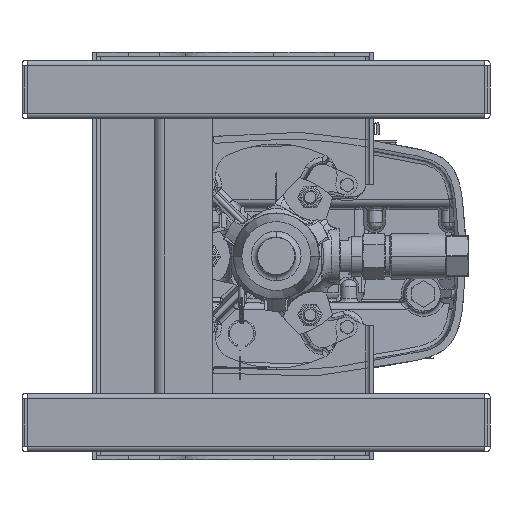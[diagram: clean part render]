
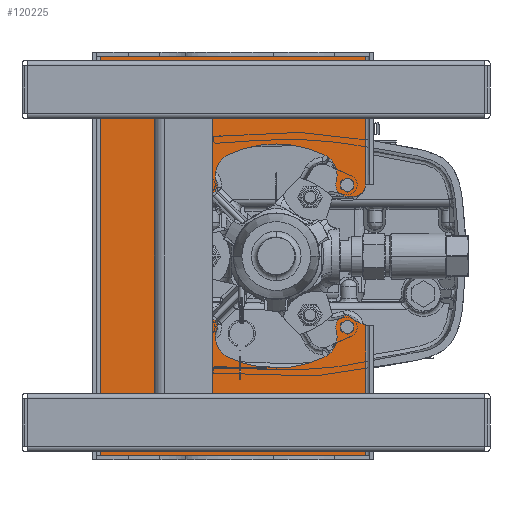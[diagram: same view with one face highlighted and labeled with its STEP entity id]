
A CAD part, front view. The second image highlights one B-rep face of the part: STEP entity #120225.
In plain terms, the highlighted planar face has unit normal (0, -1, 0).
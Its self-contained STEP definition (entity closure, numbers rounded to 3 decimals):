
#119324=CARTESIAN_POINT('',(0.538,-8.4,4.52));
#119326=DIRECTION('',(0.,0.,-1.));
#119327=VECTOR('',#119326,5.781);
#119328=CARTESIAN_POINT('',(0.538,-8.4,10.301));
#119329=LINE('',#119328,#119327);
#119335=CARTESIAN_POINT('',(0.859,-8.4,-0.105));
#119336=DIRECTION('',(0.,1.,0.));
#119337=DIRECTION('',(-0.214,0.,-0.977));
#119338=AXIS2_PLACEMENT_3D('',#119335,#119336,#119337);
#119340=DIRECTION('',(0.,0.,-1.));
#119341=VECTOR('',#119340,15.745);
#119342=CARTESIAN_POINT('',(-10.992,-8.4,8.296));
#119343=LINE('',#119342,#119341);
#119344=DIRECTION('',(1.,0.,0.));
#119345=VECTOR('',#119344,0.52);
#119346=CARTESIAN_POINT('',(-10.992,-8.4,8.296));
#119347=LINE('',#119346,#119345);
#119348=CARTESIAN_POINT('',(-10.472,-8.4,8.921));
#119349=DIRECTION('',(0.,1.,0.));
#119350=DIRECTION('',(0.,0.,1.));
#119351=AXIS2_PLACEMENT_3D('',#119348,#119349,#119350);
#119353=DIRECTION('',(-1.,0.,0.));
#119354=VECTOR('',#119353,0.52);
#119355=CARTESIAN_POINT('',(-10.472,-8.4,9.546));
#119356=LINE('',#119355,#119354);
#119357=DIRECTION('',(0.,0.,-1.));
#119358=VECTOR('',#119357,0.755);
#119359=CARTESIAN_POINT('',(-10.992,-8.4,10.301));
#119360=LINE('',#119359,#119358);
#119361=CARTESIAN_POINT('',(0.538,-8.4,4.52));
#119362=CARTESIAN_POINT('',(0.538,-8.4,4.476));
#119363=CARTESIAN_POINT('',(0.526,-8.4,4.389));
#119364=CARTESIAN_POINT('',(0.476,-8.4,4.267));
#119365=CARTESIAN_POINT('',(0.396,-8.4,4.162));
#119366=CARTESIAN_POINT('',(0.291,-8.4,4.082));
#119367=CARTESIAN_POINT('',(0.169,-8.4,4.031));
#119368=CARTESIAN_POINT('',(0.082,-8.4,4.02));
#119369=CARTESIAN_POINT('',(0.038,-8.4,4.02));
#119371=DIRECTION('',(-1.,0.,0.));
#119372=VECTOR('',#119371,0.297);
#119373=CARTESIAN_POINT('',(0.038,-8.4,4.02));
#119374=LINE('',#119373,#119372);
#119375=CARTESIAN_POINT('',(-0.259,-8.4,4.52));
#119376=DIRECTION('',(0.,1.,0.));
#119377=DIRECTION('',(0.,0.,-1.));
#119378=AXIS2_PLACEMENT_3D('',#119375,#119376,#119377);
#119380=CARTESIAN_POINT('',(-1.7,-8.4,4.937));
#119381=DIRECTION('',(0.,1.,0.));
#119382=DIRECTION('',(0.426,0.,0.905));
#119383=AXIS2_PLACEMENT_3D('',#119380,#119381,#119382);
#119385=CARTESIAN_POINT('',(-3.352,-8.4,1.426));
#119386=DIRECTION('',(0.,1.,0.));
#119387=DIRECTION('',(-0.426,0.,0.905));
#119388=AXIS2_PLACEMENT_3D('',#119385,#119386,#119387);
#119390=CARTESIAN_POINT('',(-5.004,-8.4,4.937));
#119391=DIRECTION('',(0.,1.,0.));
#119392=DIRECTION('',(-0.96,0.,-0.278));
#119393=AXIS2_PLACEMENT_3D('',#119390,#119391,#119392);
#119395=CARTESIAN_POINT('',(-6.445,-8.4,4.519));
#119396=DIRECTION('',(0.,1.,0.));
#119397=DIRECTION('',(0.96,0.,0.278));
#119398=AXIS2_PLACEMENT_3D('',#119395,#119396,#119397);
#119400=CARTESIAN_POINT('',(-6.863,-8.4,3.078));
#119401=DIRECTION('',(0.,1.,0.));
#119402=DIRECTION('',(-0.905,0.,0.426));
#119403=AXIS2_PLACEMENT_3D('',#119400,#119401,#119402);
#119405=CARTESIAN_POINT('',(-3.352,-8.4,1.426));
#119406=DIRECTION('',(0.,1.,0.));
#119407=DIRECTION('',(-0.905,0.,-0.426));
#119408=AXIS2_PLACEMENT_3D('',#119405,#119406,#119407);
#119410=CARTESIAN_POINT('',(-6.863,-8.4,-0.226));
#119411=DIRECTION('',(0.,1.,0.));
#119412=DIRECTION('',(0.278,0.,-0.96));
#119413=AXIS2_PLACEMENT_3D('',#119410,#119411,#119412);
#119415=CARTESIAN_POINT('',(-6.445,-8.4,-1.667));
#119416=DIRECTION('',(0.,1.,0.));
#119417=DIRECTION('',(-0.278,0.,0.96));
#119418=AXIS2_PLACEMENT_3D('',#119415,#119416,#119417);
#119420=CARTESIAN_POINT('',(-5.004,-8.4,-2.085));
#119421=DIRECTION('',(0.,1.,0.));
#119422=DIRECTION('',(-0.426,0.,-0.905));
#119423=AXIS2_PLACEMENT_3D('',#119420,#119421,#119422);
#119425=CARTESIAN_POINT('',(-3.352,-8.4,1.426));
#119426=DIRECTION('',(0.,1.,0.));
#119427=DIRECTION('',(0.426,0.,-0.905));
#119428=AXIS2_PLACEMENT_3D('',#119425,#119426,#119427);
#119430=CARTESIAN_POINT('',(-1.7,-8.4,-2.085));
#119431=DIRECTION('',(0.,1.,0.));
#119432=DIRECTION('',(0.961,0.,0.278));
#119433=AXIS2_PLACEMENT_3D('',#119430,#119431,#119432);
#119435=CARTESIAN_POINT('',(-0.259,-8.4,-1.668));
#119436=DIRECTION('',(0.,1.,0.));
#119437=DIRECTION('',(-0.961,0.,-0.278));
#119438=AXIS2_PLACEMENT_3D('',#119435,#119436,#119437);
#119440=DIRECTION('',(1.,0.,0.));
#119441=VECTOR('',#119440,0.06);
#119442=CARTESIAN_POINT('',(-0.259,-8.4,-1.168));
#119443=LINE('',#119442,#119441);
#119628=DIRECTION('',(1.,0.,0.));
#119629=VECTOR('',#119628,11.53);
#119630=CARTESIAN_POINT('',(-10.992,-8.4,10.301));
#119631=LINE('',#119630,#119629);
#119790=DIRECTION('',(1.,0.,0.));
#119791=VECTOR('',#119790,11.53);
#119792=CARTESIAN_POINT('',(-10.992,-8.4,-7.449));
#119793=LINE('',#119792,#119791);
#119883=DIRECTION('',(0.,0.,-1.));
#119884=VECTOR('',#119883,5.879);
#119885=CARTESIAN_POINT('',(0.538,-8.4,-1.57));
#119886=LINE('',#119885,#119884);
#119978=CARTESIAN_POINT('',(0.538,-8.4,10.301));
#119980=VERTEX_POINT('',#119978);
#119992=CARTESIAN_POINT('',(-10.992,-8.4,10.301));
#119993=VERTEX_POINT('',#119992);
#119994=CARTESIAN_POINT('',(-10.992,-8.4,-7.449));
#119995=VERTEX_POINT('',#119994);
#119996=CARTESIAN_POINT('',(0.538,-8.4,-7.449));
#119997=VERTEX_POINT('',#119996);
#119998=CARTESIAN_POINT('',(-0.739,-8.4,-1.807));
#119999=CARTESIAN_POINT('',(-0.259,-8.4,-1.168));
#120000=VERTEX_POINT('',#119998);
#120001=VERTEX_POINT('',#119999);
#120002=CARTESIAN_POINT('',(-1.274,-8.4,-2.99));
#120003=VERTEX_POINT('',#120002);
#120004=CARTESIAN_POINT('',(-5.43,-8.4,-2.989));
#120005=VERTEX_POINT('',#120004);
#120006=CARTESIAN_POINT('',(-5.965,-8.4,-1.806));
#120007=VERTEX_POINT('',#120006);
#120008=CARTESIAN_POINT('',(-6.584,-8.4,-1.187));
#120009=VERTEX_POINT('',#120008);
#120010=CARTESIAN_POINT('',(-7.767,-8.4,-0.652));
#120011=VERTEX_POINT('',#120010);
#120012=CARTESIAN_POINT('',(-7.767,-8.4,3.504));
#120013=VERTEX_POINT('',#120012);
#120014=CARTESIAN_POINT('',(-6.584,-8.4,4.039));
#120015=VERTEX_POINT('',#120014);
#120016=CARTESIAN_POINT('',(-5.965,-8.4,4.658));
#120017=VERTEX_POINT('',#120016);
#120018=CARTESIAN_POINT('',(-5.43,-8.4,5.841));
#120019=VERTEX_POINT('',#120018);
#120020=CARTESIAN_POINT('',(-1.274,-8.4,5.842));
#120021=VERTEX_POINT('',#120020);
#120022=CARTESIAN_POINT('',(-0.739,-8.4,4.659));
#120023=VERTEX_POINT('',#120022);
#120024=CARTESIAN_POINT('',(-0.259,-8.4,4.02));
#120025=VERTEX_POINT('',#120024);
#120043=CARTESIAN_POINT('',(-10.992,-8.4,9.546));
#120045=VERTEX_POINT('',#120043);
#120047=CARTESIAN_POINT('',(-10.992,-8.4,8.296));
#120049=VERTEX_POINT('',#120047);
#120050=CARTESIAN_POINT('',(-10.472,-8.4,9.546));
#120051=VERTEX_POINT('',#120050);
#120052=CARTESIAN_POINT('',(-10.472,-8.4,8.296));
#120053=VERTEX_POINT('',#120052);
#120070=CARTESIAN_POINT('',(0.538,-8.4,-1.57));
#120071=CARTESIAN_POINT('',(-0.199,-8.4,-1.168));
#120072=VERTEX_POINT('',#120070);
#120073=VERTEX_POINT('',#120071);
#120086=VERTEX_POINT('',#119324);
#120090=VERTEX_POINT('',#119369);
#120167=CARTESIAN_POINT('',(-10.992,-8.4,10.301));
#120168=DIRECTION('',(0.,1.,0.));
#120169=DIRECTION('',(1.,0.,0.));
#120170=AXIS2_PLACEMENT_3D('',#120167,#120168,#120169);
#120171=PLANE('',#120170);
#120173=ORIENTED_EDGE('',*,*,#120172,.F.);
#120175=ORIENTED_EDGE('',*,*,#120174,.T.);
#120177=ORIENTED_EDGE('',*,*,#120176,.F.);
#120179=ORIENTED_EDGE('',*,*,#120178,.F.);
#120181=ORIENTED_EDGE('',*,*,#120180,.T.);
#120183=ORIENTED_EDGE('',*,*,#120182,.F.);
#120185=ORIENTED_EDGE('',*,*,#120184,.T.);
#120187=ORIENTED_EDGE('',*,*,#120186,.F.);
#120189=ORIENTED_EDGE('',*,*,#120188,.T.);
#120190=ORIENTED_EDGE('',*,*,#120159,.T.);
#120192=ORIENTED_EDGE('',*,*,#120191,.T.);
#120194=ORIENTED_EDGE('',*,*,#120193,.T.);
#120196=ORIENTED_EDGE('',*,*,#120195,.T.);
#120198=ORIENTED_EDGE('',*,*,#120197,.F.);
#120200=ORIENTED_EDGE('',*,*,#120199,.F.);
#120202=ORIENTED_EDGE('',*,*,#120201,.F.);
#120204=ORIENTED_EDGE('',*,*,#120203,.T.);
#120206=ORIENTED_EDGE('',*,*,#120205,.F.);
#120208=ORIENTED_EDGE('',*,*,#120207,.F.);
#120210=ORIENTED_EDGE('',*,*,#120209,.F.);
#120212=ORIENTED_EDGE('',*,*,#120211,.T.);
#120214=ORIENTED_EDGE('',*,*,#120213,.F.);
#120216=ORIENTED_EDGE('',*,*,#120215,.F.);
#120218=ORIENTED_EDGE('',*,*,#120217,.F.);
#120220=ORIENTED_EDGE('',*,*,#120219,.T.);
#120222=ORIENTED_EDGE('',*,*,#120221,.T.);
#120223=EDGE_LOOP('',(#120173,#120175,#120177,#120179,#120181,#120183,#120185,
#120187,#120189,#120190,#120192,#120194,#120196,#120198,#120200,#120202,#120204,
#120206,#120208,#120210,#120212,#120214,#120216,#120218,#120220,#120222));
#120224=FACE_OUTER_BOUND('',#120223,.F.);
#120225=ADVANCED_FACE('',(#120224),#120171,.F.);
#119339=CIRCLE('',#119338,1.5);
#119352=CIRCLE('',#119351,0.625);
#119370=B_SPLINE_CURVE_WITH_KNOTS('',3,(#119361,#119362,#119363,#119364,#119365,
#119366,#119367,#119368,#119369),.UNSPECIFIED.,.F.,.F.,(4,1,1,1,1,1,4),(0.,
0.167,0.333,0.5,0.667,0.833,
1.),.UNSPECIFIED.);
#119379=CIRCLE('',#119378,0.5);
#119384=CIRCLE('',#119383,1.);
#119389=CIRCLE('',#119388,4.88);
#119394=CIRCLE('',#119393,1.);
#119399=CIRCLE('',#119398,0.5);
#119404=CIRCLE('',#119403,1.);
#119409=CIRCLE('',#119408,4.88);
#119414=CIRCLE('',#119413,1.);
#119419=CIRCLE('',#119418,0.5);
#119424=CIRCLE('',#119423,1.);
#119429=CIRCLE('',#119428,4.88);
#119434=CIRCLE('',#119433,1.);
#119439=CIRCLE('',#119438,0.5);
#120159=EDGE_CURVE('',#119980,#120086,#119329,.T.);
#120172=EDGE_CURVE('',#120072,#120073,#119339,.T.);
#120174=EDGE_CURVE('',#120072,#119997,#119886,.T.);
#120176=EDGE_CURVE('',#119995,#119997,#119793,.T.);
#120178=EDGE_CURVE('',#120049,#119995,#119343,.T.);
#120180=EDGE_CURVE('',#120049,#120053,#119347,.T.);
#120182=EDGE_CURVE('',#120051,#120053,#119352,.T.);
#120184=EDGE_CURVE('',#120051,#120045,#119356,.T.);
#120186=EDGE_CURVE('',#119993,#120045,#119360,.T.);
#120188=EDGE_CURVE('',#119993,#119980,#119631,.T.);
#120191=EDGE_CURVE('',#120086,#120090,#119370,.T.);
#120193=EDGE_CURVE('',#120090,#120025,#119374,.T.);
#120195=EDGE_CURVE('',#120025,#120023,#119379,.T.);
#120197=EDGE_CURVE('',#120021,#120023,#119384,.T.);
#120199=EDGE_CURVE('',#120019,#120021,#119389,.T.);
#120201=EDGE_CURVE('',#120017,#120019,#119394,.T.);
#120203=EDGE_CURVE('',#120017,#120015,#119399,.T.);
#120205=EDGE_CURVE('',#120013,#120015,#119404,.T.);
#120207=EDGE_CURVE('',#120011,#120013,#119409,.T.);
#120209=EDGE_CURVE('',#120009,#120011,#119414,.T.);
#120211=EDGE_CURVE('',#120009,#120007,#119419,.T.);
#120213=EDGE_CURVE('',#120005,#120007,#119424,.T.);
#120215=EDGE_CURVE('',#120003,#120005,#119429,.T.);
#120217=EDGE_CURVE('',#120000,#120003,#119434,.T.);
#120219=EDGE_CURVE('',#120000,#120001,#119439,.T.);
#120221=EDGE_CURVE('',#120001,#120073,#119443,.T.);
